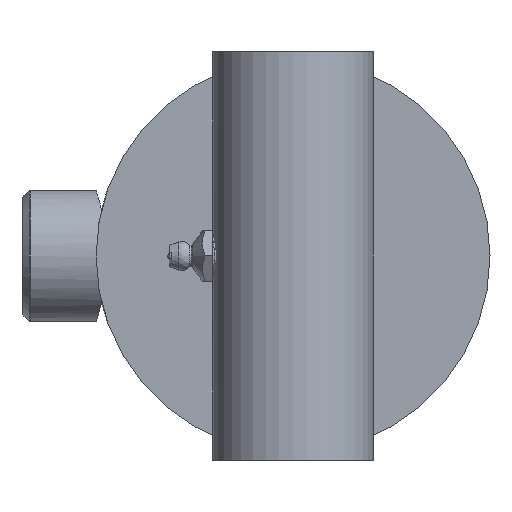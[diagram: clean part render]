
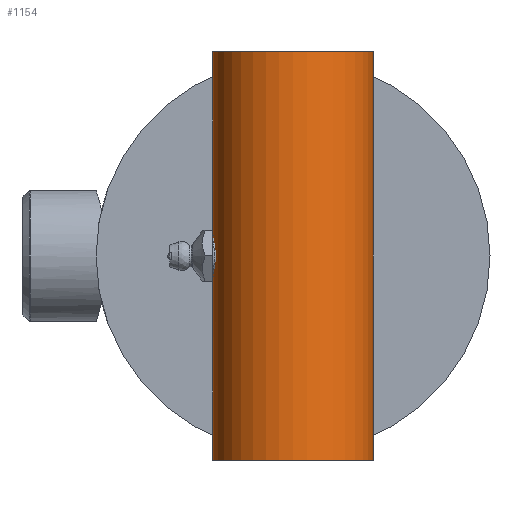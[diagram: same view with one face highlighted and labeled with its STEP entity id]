
A CAD part, left-side view. The second image highlights one B-rep face of the part: STEP entity #1154.
In plain terms, the highlighted cylindrical face has radius 17.462 mm (diameter 34.925 mm), a full revolution.
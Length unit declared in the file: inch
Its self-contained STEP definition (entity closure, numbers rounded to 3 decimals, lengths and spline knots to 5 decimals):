
#1015=CARTESIAN_POINT('',(0.67335,0.13874,0.));
#1016=VERTEX_POINT('',#1015);
#1049=CARTESIAN_POINT('',(0.67336,0.13872,-0.00002));
#1050=CARTESIAN_POINT('',(0.67336,0.13872,0.00653));
#1051=CARTESIAN_POINT('',(0.6735,0.13801,0.0209));
#1052=CARTESIAN_POINT('',(0.67532,0.12914,0.05332));
#1053=CARTESIAN_POINT('',(0.67875,0.11004,0.08341));
#1054=CARTESIAN_POINT('',(0.68322,0.07964,0.11254));
#1055=CARTESIAN_POINT('',(0.68767,0.03224,0.13437));
#1056=CARTESIAN_POINT('',(0.68785,-0.05385,0.13501));
#1057=CARTESIAN_POINT('',(0.67654,-0.12466,0.08021));
#1058=CARTESIAN_POINT('',(0.67227,-0.1434,-0.00001));
#1059=CARTESIAN_POINT('',(0.67656,-0.12473,-0.08028));
#1060=CARTESIAN_POINT('',(0.68781,-0.05373,-0.13488));
#1061=CARTESIAN_POINT('',(0.68768,0.0322,-0.13442));
#1062=CARTESIAN_POINT('',(0.68322,0.07958,-0.11253));
#1063=CARTESIAN_POINT('',(0.67874,0.1101,-0.08338));
#1064=CARTESIAN_POINT('',(0.67533,0.1291,-0.05323));
#1065=CARTESIAN_POINT('',(0.6735,0.13802,-0.021));
#1066=CARTESIAN_POINT('',(0.67336,0.13872,-0.00656));
#1067=CARTESIAN_POINT('',(0.67336,0.13872,-0.00002));
#1068=B_SPLINE_CURVE_WITH_KNOTS('',3,(#1049,#1050,#1051,#1052,#1053,#1054,#1055,#1056,#1057,#1058,#1059,#1060,#1061,#1062,#1063,#1064,#1065,#1066,#1067),.UNSPECIFIED.,.T.,.U.,(4,1,1,1,1,1,1,1,1,1,1,1,1,1,1,1,4),(-2.12554,-2.04963,-1.97372,-1.89781,-1.8219,-1.67007,-1.51825,-1.2146,-1.06277,-0.91095,-0.6073,-0.45547,-0.30365,-0.22774,-0.15182,-0.07591,0.0),.UNSPECIFIED.);
#1069=EDGE_CURVE('',#1016,#1016,#1068,.T.);
#1124=CARTESIAN_POINT('',(0.0,0.0,0.0));
#1125=DIRECTION('',(0.0,0.0,1.0));
#1126=DIRECTION('',(-1.0,0.0,0.0));
#1127=AXIS2_PLACEMENT_3D('',#1124,#1125,#1126);
#1128=CYLINDRICAL_SURFACE('',#1127,0.6875);
#1129=CARTESIAN_POINT('',(0.6875,0.,1.75));
#1130=VERTEX_POINT('',#1129);
#1131=CARTESIAN_POINT('',(0.0,0.0,1.75));
#1132=DIRECTION('',(0.0,0.0,-1.0));
#1133=DIRECTION('',(-1.0,0.0,0.0));
#1134=AXIS2_PLACEMENT_3D('',#1131,#1132,#1133);
#1135=CIRCLE('',#1134,0.6875);
#1136=EDGE_CURVE('',#1130,#1130,#1135,.T.);
#1137=ORIENTED_EDGE('',*,*,#1136,.T.);
#1138=EDGE_LOOP('',(#1137));
#1139=FACE_OUTER_BOUND('',#1138,.T.);
#1140=CARTESIAN_POINT('',(0.6875,0.,-1.75));
#1141=VERTEX_POINT('',#1140);
#1142=CARTESIAN_POINT('',(0.0,0.0,-1.75));
#1143=DIRECTION('',(0.0,0.0,1.0));
#1144=DIRECTION('',(-1.0,0.0,0.0));
#1145=AXIS2_PLACEMENT_3D('',#1142,#1143,#1144);
#1146=CIRCLE('',#1145,0.6875);
#1147=EDGE_CURVE('',#1141,#1141,#1146,.T.);
#1148=ORIENTED_EDGE('',*,*,#1147,.T.);
#1149=EDGE_LOOP('',(#1148));
#1150=FACE_BOUND('',#1149,.T.);
#1151=ORIENTED_EDGE('',*,*,#1069,.F.);
#1152=EDGE_LOOP('',(#1151));
#1153=FACE_BOUND('',#1152,.T.);
#1154=ADVANCED_FACE('',(#1139,#1150,#1153),#1128,.T.);
